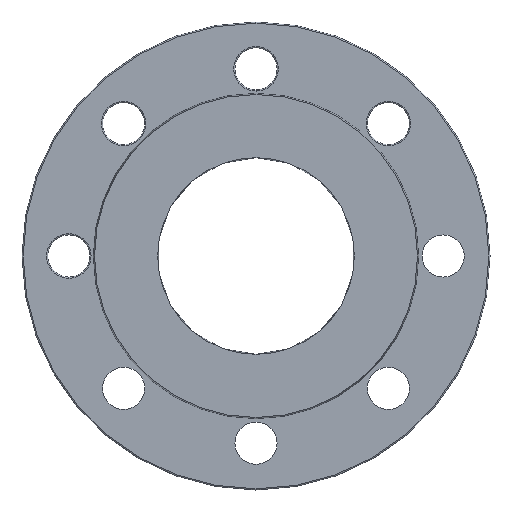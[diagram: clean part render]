
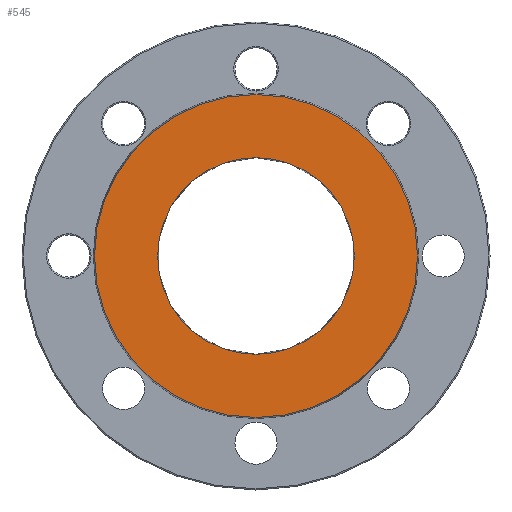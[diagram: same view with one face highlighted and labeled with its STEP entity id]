
A CAD part, left-side view. The second image highlights one B-rep face of the part: STEP entity #545.
In plain terms, the highlighted planar face has unit normal (-1, 0, 0).
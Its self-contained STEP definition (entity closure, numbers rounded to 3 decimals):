
#184 = CARTESIAN_POINT ( 'NONE',  ( 0., 0., 69. ) ) ;
#216 = CARTESIAN_POINT ( 'NONE',  ( 0., 0., -42. ) ) ;
#218 = CARTESIAN_POINT ( 'NONE',  ( 0., 0., -69. ) ) ;
#223 = CARTESIAN_POINT ( 'NONE',  ( 0., 0., 42. ) ) ;
#310 = EDGE_LOOP ( 'NONE', ( #584, #585 ) ) ;
#545 = ADVANCED_FACE ( 'NONE', ( #814, #815 ), #816, .F. ) ;
#582 = ORIENTED_EDGE ( 'NONE', *, *, #646, .F. ) ;
#583 = ORIENTED_EDGE ( 'NONE', *, *, #659, .F. ) ;
#584 = ORIENTED_EDGE ( 'NONE', *, *, #660, .T. ) ;
#585 = ORIENTED_EDGE ( 'NONE', *, *, #655, .T. ) ;
#646 = EDGE_CURVE ( 'NONE', #1322, #1329, #869, .T. ) ;
#655 = EDGE_CURVE ( 'NONE', #1290, #1324, #858, .T. ) ;
#659 = EDGE_CURVE ( 'NONE', #1329, #1322, #854, .T. ) ;
#660 = EDGE_CURVE ( 'NONE', #1324, #1290, #850, .T. ) ;
#806 = CARTESIAN_POINT ( 'NONE',  ( 0., 69., 0. ) ) ;
#814 = FACE_BOUND ( 'NONE', #1389, .T. ) ;
#815 = FACE_OUTER_BOUND ( 'NONE', #310, .T. ) ;
#816 = PLANE ( 'NONE',  #928 ) ;
#818 = DIRECTION ( 'NONE',  ( 1., 0., 0. ) ) ;
#819 = DIRECTION ( 'NONE',  ( 0., 0., -1. ) ) ;
#849 = AXIS2_PLACEMENT_3D ( 'NONE', #1533, #1534, #1535 ) ;
#850 = CIRCLE ( 'NONE', #851, 69. ) ;
#851 = AXIS2_PLACEMENT_3D ( 'NONE', #1536, #1537, #1538 ) ;
#854 = CIRCLE ( 'NONE', #849, 42. ) ;
#855 = AXIS2_PLACEMENT_3D ( 'NONE', #1524, #1525, #1526 ) ;
#858 = CIRCLE ( 'NONE', #855, 69. ) ;
#867 = AXIS2_PLACEMENT_3D ( 'NONE', #1497, #1498, #1499 ) ;
#869 = CIRCLE ( 'NONE', #867, 42. ) ;
#928 = AXIS2_PLACEMENT_3D ( 'NONE', #806, #818, #819 ) ;
#1290 = VERTEX_POINT ( 'NONE', #184 ) ;
#1322 = VERTEX_POINT ( 'NONE', #216 ) ;
#1324 = VERTEX_POINT ( 'NONE', #218 ) ;
#1329 = VERTEX_POINT ( 'NONE', #223 ) ;
#1389 = EDGE_LOOP ( 'NONE', ( #582, #583 ) ) ;
#1497 = CARTESIAN_POINT ( 'NONE',  ( 0., 0., 0. ) ) ;
#1498 = DIRECTION ( 'NONE',  ( -1., 0., 0. ) ) ;
#1499 = DIRECTION ( 'NONE',  ( 0., 0., 1. ) ) ;
#1524 = CARTESIAN_POINT ( 'NONE',  ( 0., 0., 0. ) ) ;
#1525 = DIRECTION ( 'NONE',  ( -1., 0., 0. ) ) ;
#1526 = DIRECTION ( 'NONE',  ( 0., 0., 1. ) ) ;
#1533 = CARTESIAN_POINT ( 'NONE',  ( 0., 0., 0. ) ) ;
#1534 = DIRECTION ( 'NONE',  ( -1., 0., 0. ) ) ;
#1535 = DIRECTION ( 'NONE',  ( 0., 0., 1. ) ) ;
#1536 = CARTESIAN_POINT ( 'NONE',  ( 0., 0., 0. ) ) ;
#1537 = DIRECTION ( 'NONE',  ( -1., 0., 0. ) ) ;
#1538 = DIRECTION ( 'NONE',  ( 0., 0., 1. ) ) ;
